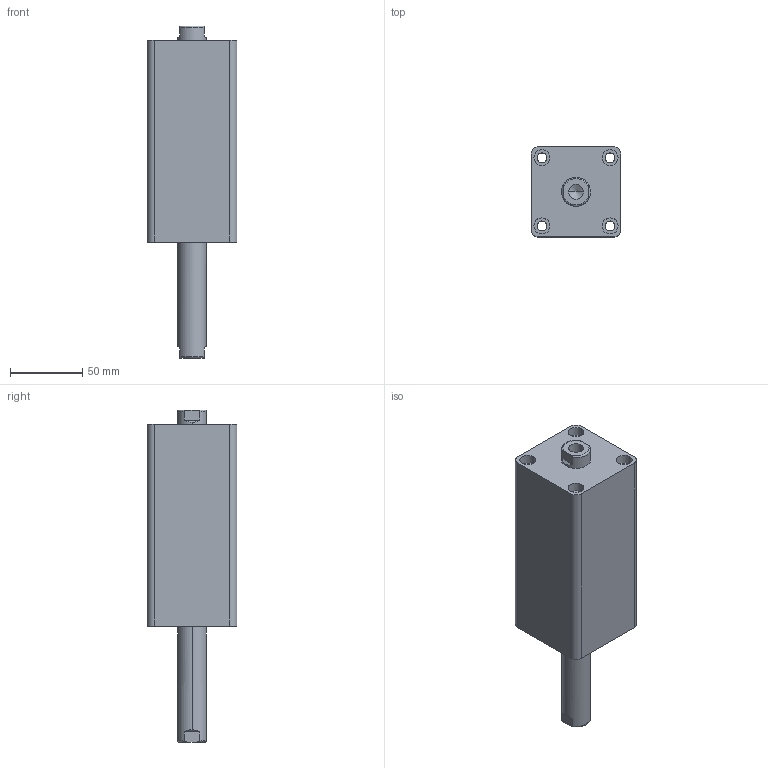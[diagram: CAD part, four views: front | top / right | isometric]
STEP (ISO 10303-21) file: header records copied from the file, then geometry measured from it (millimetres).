
FILE_DESCRIPTION (( 'STEP AP203' ), '1' );
FILE_NAME ('HTB-SW32-70N.STEP', '2019-10-07T08:56:07', ( '微软用户' ), ( '微软中国' ), 'SwSTEP 2.0', 'SolidWorks 2012', '' );
FILE_SCHEMA (( 'CONFIG_CONTROL_DESIGN' ));
Length unit declared in the file: millimetre
Products named in the file (3): HTB-SW32-70N; HTB-SW32-70N活塞杆; HTB-SW32-70掛极
Assembly tree (2 placements, depth 2):
  HTB-SW32-70N
    HTB-SW32-70掛极
    HTB-SW32-70N活塞杆
Bounding box: 62 x 62 x 229 mm (x, y, z)
Volume: 496899.8 mm3; surface area: 83830.3 mm2
Topology: 2 solids, 2 shells, 100 faces, 228 edges, 146 vertices
Faces by surface type: cylinder 48, plane 32, torus 12, cone 8
Entity records: 3237 total; most frequent: CARTESIAN_POINT 595, DIRECTION 542, ORIENTED_EDGE 448, AXIS2_PLACEMENT_3D 229, EDGE_CURVE 224, VERTEX_POINT 146, EDGE_LOOP 128, CIRCLE 124
